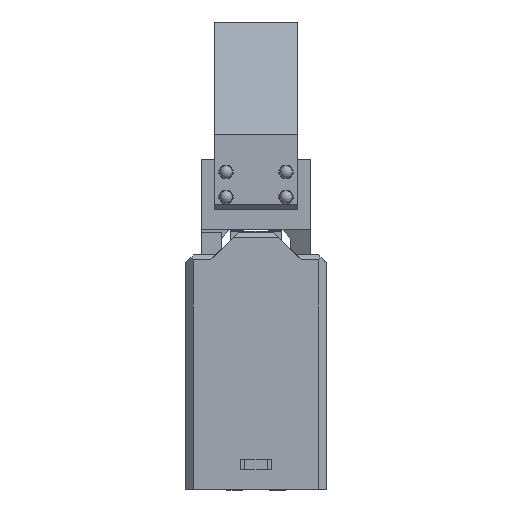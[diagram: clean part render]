
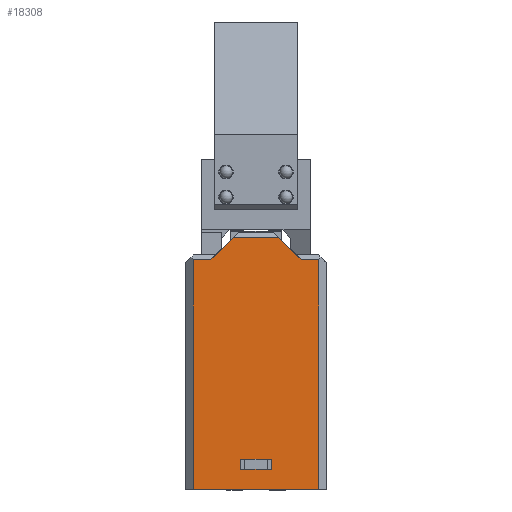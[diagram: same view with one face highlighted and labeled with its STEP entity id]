
A CAD part, left-side view. The second image highlights one B-rep face of the part: STEP entity #18308.
In plain terms, the highlighted planar face has unit normal (-1, 0, 0).
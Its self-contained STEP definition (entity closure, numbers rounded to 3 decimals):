
#1189=FACE_BOUND('',#3833,.T.);
#1693=PLANE('',#19849);
#2777=FACE_OUTER_BOUND('',#3832,.T.);
#3832=EDGE_LOOP('',(#16435,#16436,#16437,#16438,#16439,#16440,#16441,#16442));
#3833=EDGE_LOOP('',(#16443,#16444,#16445,#16446));
#5523=LINE('',#34182,#7266);
#5542=LINE('',#34237,#7285);
#5544=LINE('',#34241,#7287);
#5545=LINE('',#34243,#7288);
#5546=LINE('',#34245,#7289);
#5547=LINE('',#34247,#7290);
#5548=LINE('',#34249,#7291);
#5549=LINE('',#34251,#7292);
#5550=LINE('',#34252,#7293);
#5551=LINE('',#34254,#7294);
#5552=LINE('',#34256,#7295);
#5553=LINE('',#34257,#7296);
#7266=VECTOR('',#23370,10.);
#7285=VECTOR('',#23419,10.);
#7287=VECTOR('',#23423,10.);
#7288=VECTOR('',#23424,10.);
#7289=VECTOR('',#23425,10.);
#7290=VECTOR('',#23426,10.);
#7291=VECTOR('',#23427,10.);
#7292=VECTOR('',#23428,10.);
#7293=VECTOR('',#23429,10.);
#7294=VECTOR('',#23430,10.);
#7295=VECTOR('',#23431,10.);
#7296=VECTOR('',#23432,10.);
#9404=VERTEX_POINT('',#34179);
#9405=VERTEX_POINT('',#34181);
#9425=VERTEX_POINT('',#34234);
#9426=VERTEX_POINT('',#34236);
#9427=VERTEX_POINT('',#34240);
#9428=VERTEX_POINT('',#34242);
#9429=VERTEX_POINT('',#34244);
#9430=VERTEX_POINT('',#34246);
#9431=VERTEX_POINT('',#34248);
#9432=VERTEX_POINT('',#34250);
#9433=VERTEX_POINT('',#34253);
#9434=VERTEX_POINT('',#34255);
#11798=EDGE_CURVE('',#9405,#9404,#5523,.T.);
#11825=EDGE_CURVE('',#9425,#9426,#5542,.T.);
#11827=EDGE_CURVE('',#9427,#9425,#5544,.T.);
#11828=EDGE_CURVE('',#9428,#9427,#5545,.T.);
#11829=EDGE_CURVE('',#9429,#9428,#5546,.T.);
#11830=EDGE_CURVE('',#9430,#9429,#5547,.T.);
#11831=EDGE_CURVE('',#9431,#9430,#5548,.T.);
#11832=EDGE_CURVE('',#9432,#9431,#5549,.T.);
#11833=EDGE_CURVE('',#9426,#9432,#5550,.T.);
#11834=EDGE_CURVE('',#9404,#9433,#5551,.T.);
#11835=EDGE_CURVE('',#9433,#9434,#5552,.T.);
#11836=EDGE_CURVE('',#9434,#9405,#5553,.T.);
#16435=ORIENTED_EDGE('',*,*,#11825,.F.);
#16436=ORIENTED_EDGE('',*,*,#11827,.F.);
#16437=ORIENTED_EDGE('',*,*,#11828,.F.);
#16438=ORIENTED_EDGE('',*,*,#11829,.F.);
#16439=ORIENTED_EDGE('',*,*,#11830,.F.);
#16440=ORIENTED_EDGE('',*,*,#11831,.F.);
#16441=ORIENTED_EDGE('',*,*,#11832,.F.);
#16442=ORIENTED_EDGE('',*,*,#11833,.F.);
#16443=ORIENTED_EDGE('',*,*,#11798,.T.);
#16444=ORIENTED_EDGE('',*,*,#11834,.T.);
#16445=ORIENTED_EDGE('',*,*,#11835,.T.);
#16446=ORIENTED_EDGE('',*,*,#11836,.T.);
#18308=ADVANCED_FACE('',(#2777,#1189),#1693,.T.);
#19849=AXIS2_PLACEMENT_3D('',#34239,#23421,#23422);
#23370=DIRECTION('',(0.,-1.,0.));
#23419=DIRECTION('',(0.,1.,0.));
#23421=DIRECTION('center_axis',(-1.,0.,0.));
#23422=DIRECTION('ref_axis',(0.,-1.,0.));
#23423=DIRECTION('',(0.,0.707,0.707));
#23424=DIRECTION('',(0.,1.,0.));
#23425=DIRECTION('',(0.,0.707,-0.707));
#23426=DIRECTION('',(0.,1.,0.));
#23427=DIRECTION('',(0.,0.,-1.));
#23428=DIRECTION('',(0.,-1.,0.));
#23429=DIRECTION('',(0.,0.,1.));
#23430=DIRECTION('',(0.,0.,-1.));
#23431=DIRECTION('',(0.,1.,0.));
#23432=DIRECTION('',(0.,0.,1.));
#34179=CARTESIAN_POINT('',(-85.5,-6.,0.));
#34181=CARTESIAN_POINT('',(-85.5,6.,0.));
#34182=CARTESIAN_POINT('',(-85.5,17.,0.));
#34234=CARTESIAN_POINT('',(-85.5,18.,-83.8));
#34236=CARTESIAN_POINT('',(-85.5,25.,-83.8));
#34237=CARTESIAN_POINT('',(-85.5,14.,-83.8));
#34239=CARTESIAN_POINT('Origin',(-85.5,28.,0.));
#34240=CARTESIAN_POINT('',(-85.5,9.,-92.8));
#34241=CARTESIAN_POINT('',(-85.5,38.2,-63.6));
#34242=CARTESIAN_POINT('',(-85.5,-9.,-92.8));
#34243=CARTESIAN_POINT('',(-85.5,17.5,-92.8));
#34244=CARTESIAN_POINT('',(-85.5,-18.,-83.8));
#34245=CARTESIAN_POINT('',(-85.5,-24.2,-77.6));
#34246=CARTESIAN_POINT('',(-85.5,-25.,-83.8));
#34247=CARTESIAN_POINT('',(-85.5,14.,-83.8));
#34248=CARTESIAN_POINT('',(-85.5,-25.,8.));
#34249=CARTESIAN_POINT('',(-85.5,-25.,0.));
#34250=CARTESIAN_POINT('',(-85.5,25.,8.));
#34251=CARTESIAN_POINT('',(-85.5,28.,8.));
#34252=CARTESIAN_POINT('',(-85.5,25.,0.));
#34253=CARTESIAN_POINT('',(-85.5,-6.,-4.));
#34254=CARTESIAN_POINT('',(-85.5,-6.,0.));
#34255=CARTESIAN_POINT('',(-85.5,6.,-4.));
#34256=CARTESIAN_POINT('',(-85.5,11.,-4.));
#34257=CARTESIAN_POINT('',(-85.5,6.,-2.));
